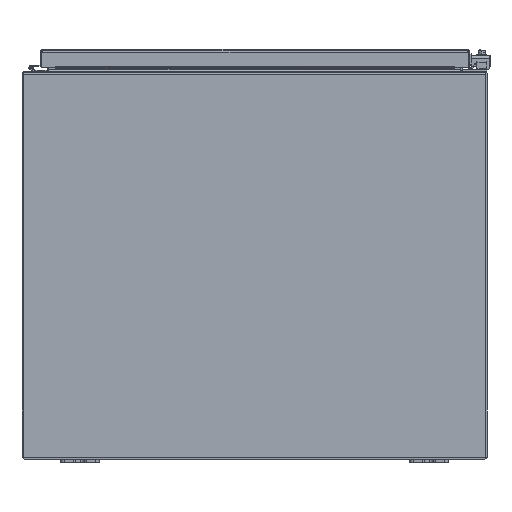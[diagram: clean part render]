
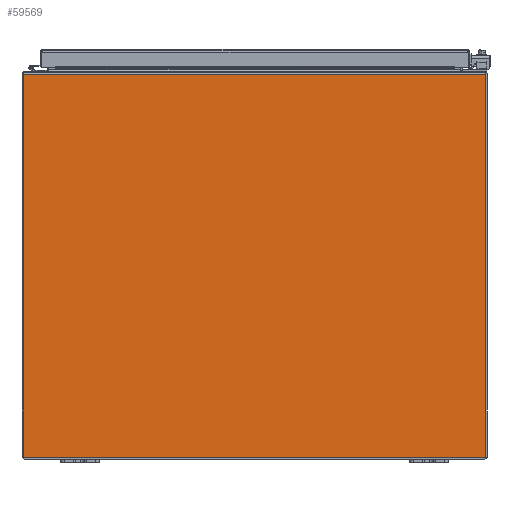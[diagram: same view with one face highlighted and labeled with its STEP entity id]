
A CAD part, front view. The second image highlights one B-rep face of the part: STEP entity #59569.
In plain terms, the highlighted planar face has unit normal (0, -1, 0).
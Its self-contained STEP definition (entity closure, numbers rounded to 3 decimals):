
#59461 = EDGE_LOOP ( 'NONE', ( #59662, #59470, #59672, #59491 ) ) ;
#59465 = EDGE_CURVE ( 'NONE', #59467, #59468, #83192, .T. ) ;
#59467 = VERTEX_POINT ( 'NONE', #83137 ) ;
#59468 = VERTEX_POINT ( 'NONE', #83136 ) ;
#59470 = ORIENTED_EDGE ( 'NONE', *, *, #59473, .F. ) ;
#59473 = EDGE_CURVE ( 'NONE', #59503, #59467, #83135, .T. ) ;
#59491 = ORIENTED_EDGE ( 'NONE', *, *, #59494, .T. ) ;
#59494 = EDGE_CURVE ( 'NONE', #59504, #59468, #83207, .T. ) ;
#59501 = EDGE_CURVE ( 'NONE', #59503, #59504, #83202, .T. ) ;
#59503 = VERTEX_POINT ( 'NONE', #83253 ) ;
#59504 = VERTEX_POINT ( 'NONE', #83252 ) ;
#59569 = ADVANCED_FACE ( 'NONE', ( #83286 ), #83285, .T. ) ;
#59662 = ORIENTED_EDGE ( 'NONE', *, *, #59465, .F. ) ;
#59672 = ORIENTED_EDGE ( 'NONE', *, *, #59501, .T. ) ;
#83132 = DIRECTION ( 'NONE',  ( 0., 0., -1. ) ) ;
#83133 = VECTOR ( 'NONE', #83132, 39.37 ) ;
#83134 = CARTESIAN_POINT ( 'NONE',  ( 11.922, 0., 0.078 ) ) ;
#83135 = LINE ( 'NONE', #83134, #83133 ) ;
#83136 = CARTESIAN_POINT ( 'NONE',  ( -11.922, 0., 0.078 ) ) ;
#83137 = CARTESIAN_POINT ( 'NONE',  ( 11.922, 0., 0.078 ) ) ;
#83138 = DIRECTION ( 'NONE',  ( -1., 0., 0. ) ) ;
#83139 = VECTOR ( 'NONE', #83138, 39.37 ) ;
#83140 = CARTESIAN_POINT ( 'NONE',  ( 12., 0., 0.078 ) ) ;
#83192 = LINE ( 'NONE', #83140, #83139 ) ;
#83194 = DIRECTION ( 'NONE',  ( -1., 0., 0. ) ) ;
#83195 = VECTOR ( 'NONE', #83194, 39.37 ) ;
#83196 = CARTESIAN_POINT ( 'NONE',  ( 12., 0., 19.848 ) ) ;
#83202 = LINE ( 'NONE', #83196, #83195 ) ;
#83204 = DIRECTION ( 'NONE',  ( 0., 0., -1. ) ) ;
#83205 = VECTOR ( 'NONE', #83204, 39.37 ) ;
#83206 = CARTESIAN_POINT ( 'NONE',  ( -11.922, 0., 20.928 ) ) ;
#83207 = LINE ( 'NONE', #83206, #83205 ) ;
#83252 = CARTESIAN_POINT ( 'NONE',  ( -11.922, 0., 19.848 ) ) ;
#83253 = CARTESIAN_POINT ( 'NONE',  ( 11.922, 0., 19.848 ) ) ;
#83278 = CARTESIAN_POINT ( 'NONE',  ( 12., 0., 0.078 ) ) ;
#83279 = AXIS2_PLACEMENT_3D ( 'NONE', #83278, #83280, #83322 ) ;
#83280 = DIRECTION ( 'NONE',  ( 0., -1., 0. ) ) ;
#83285 = PLANE ( 'NONE',  #83279 ) ;
#83286 = FACE_OUTER_BOUND ( 'NONE', #59461, .T. ) ;
#83322 = DIRECTION ( 'NONE',  ( 0., 0., -1. ) ) ;
